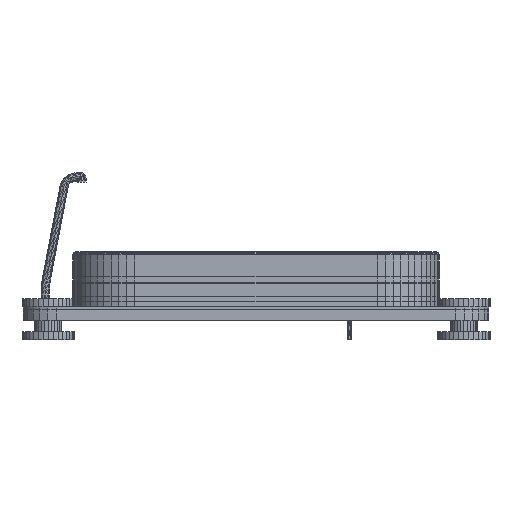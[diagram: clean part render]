
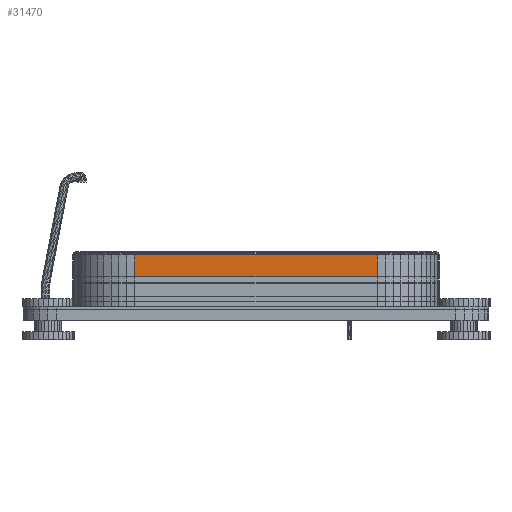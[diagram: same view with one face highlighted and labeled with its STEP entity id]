
A CAD part, left-side view. The second image highlights one B-rep face of the part: STEP entity #31470.
In plain terms, the highlighted planar face has unit normal (-1, 0, 0).
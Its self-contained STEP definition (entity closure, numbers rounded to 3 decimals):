
#63=DIRECTION('',(0.0,1.0,0.0));
#161=DIRECTION('',(0.0,-1.0,0.0));
#335=DIRECTION('',(-1.0,0.0,0.0));
#4098=DIRECTION('',(0.0,0.0,1.0));
#28636=CARTESIAN_POINT('',(-37.75,17.7,8.0));
#28637=VERTEX_POINT('',#28636);
#28653=CARTESIAN_POINT('',(-37.75,-26.45,8.0));
#28654=VERTEX_POINT('',#28653);
#28657=VECTOR('',#161,44.15);
#28658=LINE('',#28636,#28657);
#28659=EDGE_CURVE('',#28637,#28654,#28658,.T.);
#31438=VECTOR('',#4098,4.0);
#31439=LINE('',#28636,#31438);
#31440=CARTESIAN_POINT('',(-37.75,17.7,12.0));
#31441=VERTEX_POINT('',#31440);
#31442=EDGE_CURVE('',#28637,#31441,#31439,.T.);
#31454=ORIENTED_EDGE('',*,*,#28659,.T.);
#31455=VECTOR('',#4098,4.0);
#31456=LINE('',#28653,#31455);
#31457=CARTESIAN_POINT('',(-37.75,-26.45,12.0));
#31458=VERTEX_POINT('',#31457);
#31459=EDGE_CURVE('',#28654,#31458,#31456,.T.);
#31460=ORIENTED_EDGE('',*,*,#31459,.T.);
#31461=VECTOR('',#161,44.15);
#31462=LINE('',#31440,#31461);
#31463=EDGE_CURVE('',#31441,#31458,#31462,.T.);
#31464=ORIENTED_EDGE('',*,*,#31463,.F.);
#31465=ORIENTED_EDGE('',*,*,#31442,.F.);
#31466=EDGE_LOOP('',(#31454,#31460,#31464,#31465));
#31467=FACE_OUTER_BOUND('',#31466,.T.);
#31468=AXIS2_PLACEMENT_3D('',#28636,#335,#63);
#31469=PLANE('',#31468);
#31470=ADVANCED_FACE('',(#31467),#31469,.T.);
